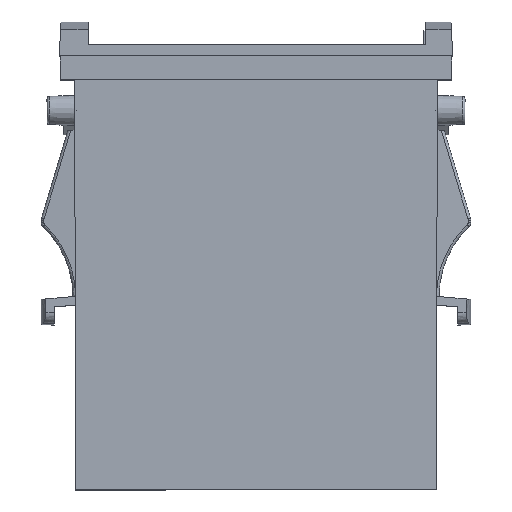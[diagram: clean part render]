
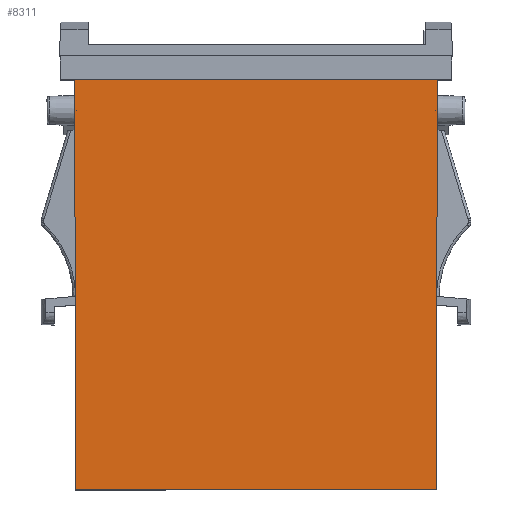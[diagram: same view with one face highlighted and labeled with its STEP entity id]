
A CAD part, top view. The second image highlights one B-rep face of the part: STEP entity #8311.
In plain terms, the highlighted planar face has unit normal (0, -0.002, 1).
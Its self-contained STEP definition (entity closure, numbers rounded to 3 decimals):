
#1169 = CARTESIAN_POINT ( 'NONE',  ( -33.119, -79.6, 15.719 ) ) ;
#1315 = DIRECTION ( 'NONE',  ( 1., 0., 0. ) ) ;
#1441 = CARTESIAN_POINT ( 'NONE',  ( 33.25, -4.4, 15.85 ) ) ;
#1580 = VECTOR ( 'NONE', #1315, 1000. ) ;
#1629 = CARTESIAN_POINT ( 'NONE',  ( -33.25, -4.4, 15.85 ) ) ;
#1751 = CARTESIAN_POINT ( 'NONE',  ( 33.25, -4.4, 15.85 ) ) ;
#1999 = EDGE_CURVE ( 'NONE', #5328, #12480, #18739, .T. ) ;
#2696 = FACE_OUTER_BOUND ( 'NONE', #12651, .T. ) ;
#2702 = VECTOR ( 'NONE', #4627, 1000. ) ;
#2769 = LINE ( 'NONE', #20684, #8763 ) ;
#3158 = VERTEX_POINT ( 'NONE', #11582 ) ;
#4627 = DIRECTION ( 'NONE',  ( -0.002, 1., 0.002 ) ) ;
#4788 = CARTESIAN_POINT ( 'NONE',  ( 33.25, -4.4, 15.85 ) ) ;
#5328 = VERTEX_POINT ( 'NONE', #1169 ) ;
#5772 = CARTESIAN_POINT ( 'NONE',  ( -33.25, -4.4, 15.85 ) ) ;
#5832 = CARTESIAN_POINT ( 'NONE',  ( 33.25, -4.4, 15.85 ) ) ;
#6452 = ORIENTED_EDGE ( 'NONE', *, *, #8701, .F. ) ;
#7872 = PLANE ( 'NONE',  #17001 ) ;
#8311 = ADVANCED_FACE ( 'NONE', ( #2696 ), #7872, .F. ) ;
#8701 = EDGE_CURVE ( 'NONE', #12480, #18944, #18692, .T. ) ;
#8763 = VECTOR ( 'NONE', #12672, 1000. ) ;
#9356 = LINE ( 'NONE', #1751, #18930 ) ;
#11582 = CARTESIAN_POINT ( 'NONE',  ( 33.119, -79.6, 15.719 ) ) ;
#12480 = VERTEX_POINT ( 'NONE', #1629 ) ;
#12651 = EDGE_LOOP ( 'NONE', ( #16701, #6452, #20224, #17081 ) ) ;
#12672 = DIRECTION ( 'NONE',  ( -1., 0., 0. ) ) ;
#14299 = DIRECTION ( 'NONE',  ( 0., 1., 0.002 ) ) ;
#14641 = EDGE_CURVE ( 'NONE', #3158, #5328, #2769, .T. ) ;
#15774 = DIRECTION ( 'NONE',  ( 0., 0.002, -1. ) ) ;
#15791 = DIRECTION ( 'NONE',  ( 0.002, 1., 0.002 ) ) ;
#16689 = EDGE_CURVE ( 'NONE', #3158, #18944, #9356, .T. ) ;
#16701 = ORIENTED_EDGE ( 'NONE', *, *, #16689, .T. ) ;
#17001 = AXIS2_PLACEMENT_3D ( 'NONE', #1441, #15774, #14299 ) ;
#17081 = ORIENTED_EDGE ( 'NONE', *, *, #14641, .F. ) ;
#18692 = LINE ( 'NONE', #5832, #1580 ) ;
#18739 = LINE ( 'NONE', #5772, #2702 ) ;
#18930 = VECTOR ( 'NONE', #15791, 1000. ) ;
#18944 = VERTEX_POINT ( 'NONE', #4788 ) ;
#20224 = ORIENTED_EDGE ( 'NONE', *, *, #1999, .F. ) ;
#20684 = CARTESIAN_POINT ( 'NONE',  ( 33.25, -79.6, 15.719 ) ) ;
